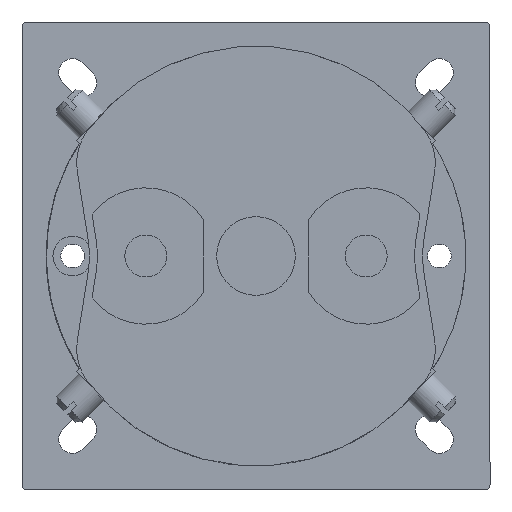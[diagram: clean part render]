
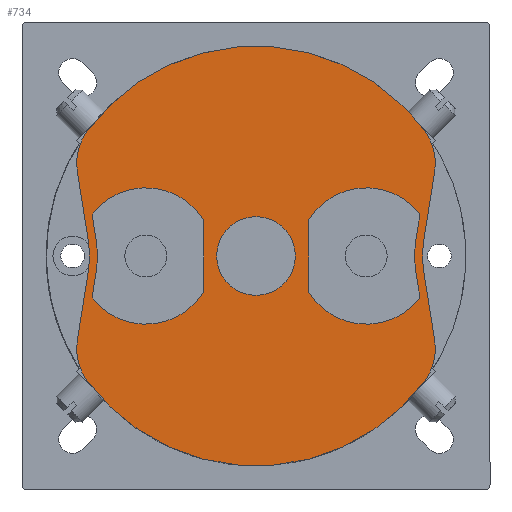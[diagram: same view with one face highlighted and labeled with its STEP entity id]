
A CAD part, front view. The second image highlights one B-rep face of the part: STEP entity #734.
In plain terms, the highlighted planar face has unit normal (0, -1, 0).
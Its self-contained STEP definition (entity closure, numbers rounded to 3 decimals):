
#401=FACE_BOUND('',#2322,.T.);
#402=FACE_BOUND('',#2323,.T.);
#403=FACE_BOUND('',#2324,.T.);
#404=FACE_BOUND('',#2325,.T.);
#734=ADVANCED_FACE('',(#401,#402,#403,#404),#1291,.T.);
#1291=PLANE('',#11170);
#2322=EDGE_LOOP('',(#3894,#3895,#3896,#3897,#3898,#3899));
#2323=EDGE_LOOP('',(#3900,#3901,#3902,#3903,#3904,#3905));
#2324=EDGE_LOOP('',(#3906,#3907,#3908,#3909,#3910,#3911,#3912,#3913,#3914,
#3915,#3916,#3917));
#2325=EDGE_LOOP('',(#3918));
#2994=CIRCLE('',#11002,40.);
#3008=CIRCLE('',#11016,40.);
#3062=CIRCLE('',#11120,7.5);
#3063=CIRCLE('',#11122,13.);
#3065=CIRCLE('',#11126,21.5);
#3067=CIRCLE('',#11130,13.);
#3069=CIRCLE('',#11136,21.5);
#3071=CIRCLE('',#11140,13.);
#3073=CIRCLE('',#11144,13.);
#3076=CIRCLE('',#11149,10.);
#3078=CIRCLE('',#11153,20.);
#3080=CIRCLE('',#11157,10.);
#3082=CIRCLE('',#11160,10.);
#3084=CIRCLE('',#11164,20.);
#3086=CIRCLE('',#11168,10.);
#3894=ORIENTED_EDGE('',*,*,#7618,.T.);
#3895=ORIENTED_EDGE('',*,*,#7634,.T.);
#3896=ORIENTED_EDGE('',*,*,#7631,.T.);
#3897=ORIENTED_EDGE('',*,*,#7628,.T.);
#3898=ORIENTED_EDGE('',*,*,#7625,.T.);
#3899=ORIENTED_EDGE('',*,*,#7622,.T.);
#3900=ORIENTED_EDGE('',*,*,#7616,.F.);
#3901=ORIENTED_EDGE('',*,*,#7600,.F.);
#3902=ORIENTED_EDGE('',*,*,#7604,.F.);
#3903=ORIENTED_EDGE('',*,*,#7607,.F.);
#3904=ORIENTED_EDGE('',*,*,#7610,.F.);
#3905=ORIENTED_EDGE('',*,*,#7613,.F.);
#3906=ORIENTED_EDGE('',*,*,#7663,.T.);
#3907=ORIENTED_EDGE('',*,*,#7661,.T.);
#3908=ORIENTED_EDGE('',*,*,#7658,.T.);
#3909=ORIENTED_EDGE('',*,*,#7655,.T.);
#3910=ORIENTED_EDGE('',*,*,#7652,.T.);
#3911=ORIENTED_EDGE('',*,*,#7473,.T.);
#3912=ORIENTED_EDGE('',*,*,#7649,.T.);
#3913=ORIENTED_EDGE('',*,*,#7647,.T.);
#3914=ORIENTED_EDGE('',*,*,#7644,.T.);
#3915=ORIENTED_EDGE('',*,*,#7641,.T.);
#3916=ORIENTED_EDGE('',*,*,#7638,.T.);
#3917=ORIENTED_EDGE('',*,*,#7447,.T.);
#3918=ORIENTED_EDGE('',*,*,#7599,.F.);
#6395=VERTEX_POINT('',#15290);
#6396=VERTEX_POINT('',#15292);
#6419=VERTEX_POINT('',#15340);
#6420=VERTEX_POINT('',#15342);
#6505=VERTEX_POINT('',#15603);
#6506=VERTEX_POINT('',#15606);
#6507=VERTEX_POINT('',#15607);
#6510=VERTEX_POINT('',#15615);
#6512=VERTEX_POINT('',#15621);
#6514=VERTEX_POINT('',#15627);
#6516=VERTEX_POINT('',#15633);
#6518=VERTEX_POINT('',#15643);
#6519=VERTEX_POINT('',#15644);
#6522=VERTEX_POINT('',#15652);
#6524=VERTEX_POINT('',#15658);
#6526=VERTEX_POINT('',#15664);
#6528=VERTEX_POINT('',#15670);
#6530=VERTEX_POINT('',#15680);
#6532=VERTEX_POINT('',#15686);
#6534=VERTEX_POINT('',#15692);
#6536=VERTEX_POINT('',#15698);
#6538=VERTEX_POINT('',#15707);
#6540=VERTEX_POINT('',#15713);
#6542=VERTEX_POINT('',#15719);
#6544=VERTEX_POINT('',#15725);
#7447=EDGE_CURVE('',#6396,#6395,#2994,.T.);
#7473=EDGE_CURVE('',#6420,#6419,#3008,.T.);
#7599=EDGE_CURVE('',#6505,#6505,#3062,.T.);
#7600=EDGE_CURVE('',#6506,#6507,#3063,.T.);
#7604=EDGE_CURVE('',#6510,#6506,#8953,.T.);
#7607=EDGE_CURVE('',#6512,#6510,#3065,.T.);
#7610=EDGE_CURVE('',#6514,#6512,#8957,.T.);
#7613=EDGE_CURVE('',#6516,#6514,#3067,.T.);
#7616=EDGE_CURVE('',#6507,#6516,#8961,.T.);
#7618=EDGE_CURVE('',#6518,#6519,#8963,.T.);
#7622=EDGE_CURVE('',#6522,#6518,#3069,.T.);
#7625=EDGE_CURVE('',#6524,#6522,#8968,.T.);
#7628=EDGE_CURVE('',#6526,#6524,#3071,.T.);
#7631=EDGE_CURVE('',#6528,#6526,#8972,.T.);
#7634=EDGE_CURVE('',#6519,#6528,#3073,.T.);
#7638=EDGE_CURVE('',#6530,#6396,#3076,.T.);
#7641=EDGE_CURVE('',#6532,#6530,#8978,.T.);
#7644=EDGE_CURVE('',#6534,#6532,#3078,.T.);
#7647=EDGE_CURVE('',#6536,#6534,#8982,.T.);
#7649=EDGE_CURVE('',#6419,#6536,#3080,.T.);
#7652=EDGE_CURVE('',#6538,#6420,#3082,.T.);
#7655=EDGE_CURVE('',#6540,#6538,#8986,.T.);
#7658=EDGE_CURVE('',#6542,#6540,#3084,.T.);
#7661=EDGE_CURVE('',#6544,#6542,#8990,.T.);
#7663=EDGE_CURVE('',#6395,#6544,#3086,.T.);
#8953=LINE('',#15614,#9998);
#8957=LINE('',#15626,#10002);
#8961=LINE('',#15638,#10006);
#8963=LINE('',#15642,#10008);
#8968=LINE('',#15657,#10013);
#8972=LINE('',#15669,#10017);
#8978=LINE('',#15689,#10023);
#8982=LINE('',#15701,#10027);
#8986=LINE('',#15716,#10031);
#8990=LINE('',#15728,#10035);
#9998=VECTOR('',#12503,1.);
#10002=VECTOR('',#12515,1.);
#10006=VECTOR('',#12527,1.);
#10008=VECTOR('',#12533,1.);
#10013=VECTOR('',#12546,1.);
#10017=VECTOR('',#12558,1.);
#10023=VECTOR('',#12580,1.);
#10027=VECTOR('',#12592,1.);
#10031=VECTOR('',#12610,1.);
#10035=VECTOR('',#12622,1.);
#11002=AXIS2_PLACEMENT_3D('',#15291,#12171,#12172);
#11016=AXIS2_PLACEMENT_3D('',#15341,#12211,#12212);
#11120=AXIS2_PLACEMENT_3D('',#15602,#12491,#12492);
#11122=AXIS2_PLACEMENT_3D('',#15605,#12495,#12496);
#11126=AXIS2_PLACEMENT_3D('',#15620,#12508,#12509);
#11130=AXIS2_PLACEMENT_3D('',#15632,#12520,#12521);
#11136=AXIS2_PLACEMENT_3D('',#15651,#12539,#12540);
#11140=AXIS2_PLACEMENT_3D('',#15663,#12551,#12552);
#11144=AXIS2_PLACEMENT_3D('',#15675,#12563,#12564);
#11149=AXIS2_PLACEMENT_3D('',#15683,#12574,#12575);
#11153=AXIS2_PLACEMENT_3D('',#15695,#12586,#12587);
#11157=AXIS2_PLACEMENT_3D('',#15704,#12597,#12598);
#11160=AXIS2_PLACEMENT_3D('',#15710,#12604,#12605);
#11164=AXIS2_PLACEMENT_3D('',#15722,#12616,#12617);
#11168=AXIS2_PLACEMENT_3D('',#15731,#12627,#12628);
#11170=AXIS2_PLACEMENT_3D('',#15733,#12631,#12632);
#12171=DIRECTION('',(0.,-1.,0.));
#12172=DIRECTION('',(0.,0.,-1.));
#12211=DIRECTION('',(0.,-1.,0.));
#12212=DIRECTION('',(0.,0.,-1.));
#12491=DIRECTION('',(0.,-1.,0.));
#12492=DIRECTION('',(0.,0.,-1.));
#12495=DIRECTION('',(0.,-1.,0.));
#12496=DIRECTION('',(1.,0.,0.));
#12503=DIRECTION('',(0.156,0.,0.988));
#12508=DIRECTION('',(0.,1.,0.));
#12509=DIRECTION('',(1.,0.,0.));
#12515=DIRECTION('',(-0.156,0.,0.988));
#12520=DIRECTION('',(0.,-1.,0.));
#12521=DIRECTION('',(1.,0.,0.));
#12527=DIRECTION('',(0.,0.,-1.));
#12533=DIRECTION('',(-0.156,0.,0.988));
#12539=DIRECTION('',(0.,-1.,0.));
#12540=DIRECTION('',(1.,0.,0.));
#12546=DIRECTION('',(0.156,0.,0.988));
#12551=DIRECTION('',(0.,1.,0.));
#12552=DIRECTION('',(1.,0.,0.));
#12558=DIRECTION('',(0.,0.,-1.));
#12563=DIRECTION('',(0.,1.,0.));
#12564=DIRECTION('',(1.,0.,0.));
#12574=DIRECTION('',(0.,-1.,0.));
#12575=DIRECTION('',(0.,0.,-1.));
#12580=DIRECTION('',(0.156,0.,0.988));
#12586=DIRECTION('',(0.,1.,0.));
#12587=DIRECTION('',(0.,0.,-1.));
#12592=DIRECTION('',(-0.156,0.,0.988));
#12597=DIRECTION('',(0.,-1.,0.));
#12598=DIRECTION('',(0.,0.,-1.));
#12604=DIRECTION('',(0.,-1.,0.));
#12605=DIRECTION('',(0.,0.,-1.));
#12610=DIRECTION('',(-0.156,0.,-0.988));
#12616=DIRECTION('',(0.,1.,0.));
#12617=DIRECTION('',(0.,0.,-1.));
#12622=DIRECTION('',(0.156,0.,-0.988));
#12627=DIRECTION('',(0.,-1.,0.));
#12628=DIRECTION('',(0.,0.,-1.));
#12631=DIRECTION('',(0.,-1.,0.));
#12632=DIRECTION('',(0.,0.,-1.));
#15290=CARTESIAN_POINT('',(-32.249,-98.5,23.665));
#15291=CARTESIAN_POINT('',(0.,-98.5,0.));
#15292=CARTESIAN_POINT('',(32.249,-98.5,23.665));
#15340=CARTESIAN_POINT('',(32.249,-98.5,-23.665));
#15341=CARTESIAN_POINT('',(0.,-98.5,0.));
#15342=CARTESIAN_POINT('',(-32.249,-98.5,-23.665));
#15602=CARTESIAN_POINT('',(0.,-98.5,0.));
#15603=CARTESIAN_POINT('',(0.,-98.5,-7.5));
#15605=CARTESIAN_POINT('',(21.031,-98.5,0.));
#15606=CARTESIAN_POINT('',(31.253,-98.5,8.032));
#15607=CARTESIAN_POINT('',(10.031,-98.5,6.928));
#15614=CARTESIAN_POINT('',(30.514,-98.5,3.363));
#15615=CARTESIAN_POINT('',(30.514,-98.5,3.363));
#15620=CARTESIAN_POINT('',(51.749,-98.5,0.));
#15621=CARTESIAN_POINT('',(30.514,-98.5,-3.363));
#15626=CARTESIAN_POINT('',(31.253,-98.5,-8.032));
#15627=CARTESIAN_POINT('',(31.253,-98.5,-8.032));
#15632=CARTESIAN_POINT('',(21.031,-98.5,0.));
#15633=CARTESIAN_POINT('',(10.031,-98.5,-6.928));
#15638=CARTESIAN_POINT('',(10.031,-98.5,6.928));
#15642=CARTESIAN_POINT('',(-30.514,-98.5,3.363));
#15643=CARTESIAN_POINT('',(-30.514,-98.5,3.363));
#15644=CARTESIAN_POINT('',(-31.248,-98.5,7.998));
#15651=CARTESIAN_POINT('',(-51.749,-98.5,0.));
#15652=CARTESIAN_POINT('',(-30.514,-98.5,-3.363));
#15657=CARTESIAN_POINT('',(-31.248,-98.5,-7.998));
#15658=CARTESIAN_POINT('',(-31.248,-98.5,-7.998));
#15663=CARTESIAN_POINT('',(-21.,-98.5,0.));
#15664=CARTESIAN_POINT('',(-10.,-98.5,-6.928));
#15669=CARTESIAN_POINT('',(-10.,-98.5,6.928));
#15670=CARTESIAN_POINT('',(-10.,-98.5,6.928));
#15675=CARTESIAN_POINT('',(-21.,-98.5,0.));
#15680=CARTESIAN_POINT('',(34.063,-98.5,16.184));
#15683=CARTESIAN_POINT('',(24.186,-98.5,17.749));
#15686=CARTESIAN_POINT('',(31.996,-98.5,3.129));
#15689=CARTESIAN_POINT('',(31.996,-98.5,3.129));
#15692=CARTESIAN_POINT('',(31.996,-98.5,-3.129));
#15695=CARTESIAN_POINT('',(51.749,-98.5,0.));
#15698=CARTESIAN_POINT('',(34.063,-98.5,-16.184));
#15701=CARTESIAN_POINT('',(34.063,-98.5,-16.184));
#15704=CARTESIAN_POINT('',(24.186,-98.5,-17.749));
#15707=CARTESIAN_POINT('',(-34.063,-98.5,-16.184));
#15710=CARTESIAN_POINT('',(-24.186,-98.5,-17.749));
#15713=CARTESIAN_POINT('',(-31.996,-98.5,-3.129));
#15716=CARTESIAN_POINT('',(-31.996,-98.5,-3.129));
#15719=CARTESIAN_POINT('',(-31.996,-98.5,3.129));
#15722=CARTESIAN_POINT('',(-51.749,-98.5,0.));
#15725=CARTESIAN_POINT('',(-34.063,-98.5,16.184));
#15728=CARTESIAN_POINT('',(-34.063,-98.5,16.184));
#15731=CARTESIAN_POINT('',(-24.186,-98.5,17.749));
#15733=CARTESIAN_POINT('',(-24.186,-98.5,17.749));
